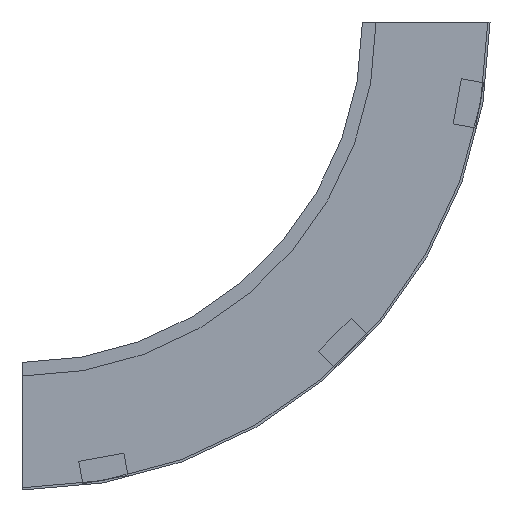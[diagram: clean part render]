
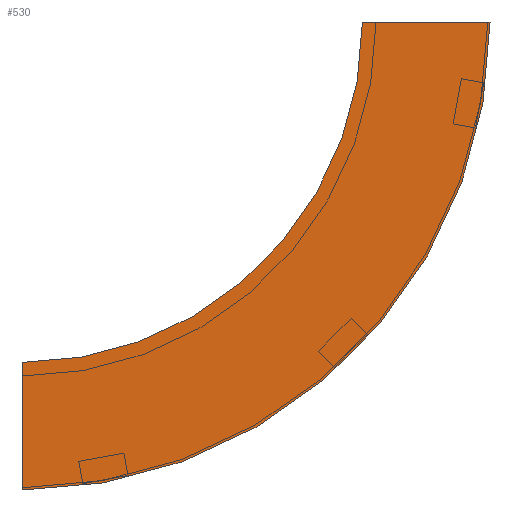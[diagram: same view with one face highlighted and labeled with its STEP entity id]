
A CAD part, left-side view. The second image highlights one B-rep face of the part: STEP entity #530.
In plain terms, the highlighted planar face has unit normal (-1, 0, 0) as drawn and (1, 0, 0) by its records, which use the part's own axes.
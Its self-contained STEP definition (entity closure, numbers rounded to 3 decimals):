
#29 = ORIENTED_EDGE ( 'NONE', *, *, #281, .F. ) ;
#38 = DIRECTION ( 'NONE',  ( 0., -1., 0. ) ) ;
#39 = VERTEX_POINT ( 'NONE', #366 ) ;
#40 = CARTESIAN_POINT ( 'NONE',  ( 0., 300., -412.5 ) ) ;
#49 = AXIS2_PLACEMENT_3D ( 'NONE', #386, #525, #38 ) ;
#72 = ORIENTED_EDGE ( 'NONE', *, *, #524, .F. ) ;
#81 = AXIS2_PLACEMENT_3D ( 'NONE', #474, #128, #132 ) ;
#82 = VERTEX_POINT ( 'NONE', #91 ) ;
#91 = CARTESIAN_POINT ( 'NONE',  ( 0., -112.5, 0. ) ) ;
#107 = DIRECTION ( 'NONE',  ( 0., 0., 1. ) ) ;
#128 = DIRECTION ( 'NONE',  ( 1., 0., 0. ) ) ;
#132 = DIRECTION ( 'NONE',  ( 0., -1., 0. ) ) ;
#135 = VERTEX_POINT ( 'NONE', #40 ) ;
#138 = PLANE ( 'NONE',  #282 ) ;
#147 = EDGE_LOOP ( 'NONE', ( #29, #72, #223, #199 ) ) ;
#164 = EDGE_CURVE ( 'NONE', #82, #135, #435, .T. ) ;
#184 = CARTESIAN_POINT ( 'NONE',  ( 0., -112.5, 0. ) ) ;
#191 = CARTESIAN_POINT ( 'NONE',  ( 0., -112.5, 0. ) ) ;
#199 = ORIENTED_EDGE ( 'NONE', *, *, #480, .T. ) ;
#203 = DIRECTION ( 'NONE',  ( 0., 0., 1. ) ) ;
#213 = CARTESIAN_POINT ( 'NONE',  ( 0., 300., -300. ) ) ;
#223 = ORIENTED_EDGE ( 'NONE', *, *, #164, .T. ) ;
#256 = CIRCLE ( 'NONE', #49, 300. ) ;
#281 = EDGE_CURVE ( 'NONE', #39, #551, #256, .T. ) ;
#282 = AXIS2_PLACEMENT_3D ( 'NONE', #191, #467, #107 ) ;
#298 = CARTESIAN_POINT ( 'NONE',  ( 0., 300., -412.5 ) ) ;
#319 = DIRECTION ( 'NONE',  ( 0., 1., 0. ) ) ;
#364 = FACE_OUTER_BOUND ( 'NONE', #147, .T. ) ;
#366 = CARTESIAN_POINT ( 'NONE',  ( 0., 0., 0. ) ) ;
#386 = CARTESIAN_POINT ( 'NONE',  ( 0., 300., 0. ) ) ;
#435 = CIRCLE ( 'NONE', #81, 412.5 ) ;
#461 = VECTOR ( 'NONE', #319, 1000. ) ;
#467 = DIRECTION ( 'NONE',  ( -1., 0., 0. ) ) ;
#474 = CARTESIAN_POINT ( 'NONE',  ( 0., 300., 0. ) ) ;
#476 = LINE ( 'NONE', #298, #503 ) ;
#480 = EDGE_CURVE ( 'NONE', #135, #551, #476, .T. ) ;
#500 = LINE ( 'NONE', #184, #461 ) ;
#503 = VECTOR ( 'NONE', #203, 1000. ) ;
#524 = EDGE_CURVE ( 'NONE', #82, #39, #500, .T. ) ;
#525 = DIRECTION ( 'NONE',  ( 1., 0., 0. ) ) ;
#530 = ADVANCED_FACE ( 'NONE', ( #364 ), #138, .F. ) ;
#551 = VERTEX_POINT ( 'NONE', #213 ) ;
